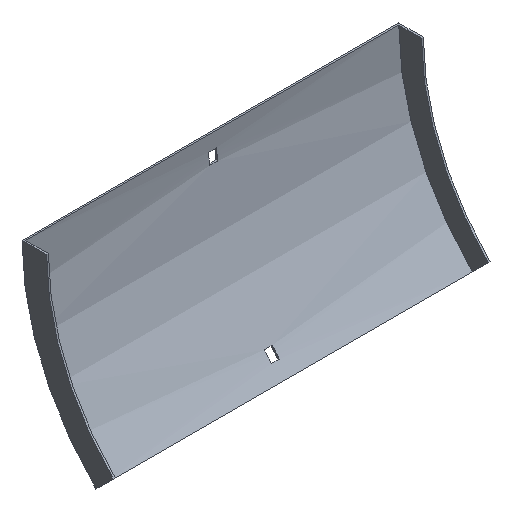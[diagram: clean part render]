
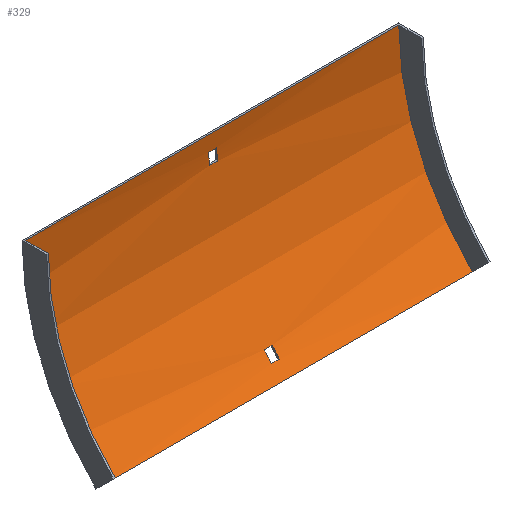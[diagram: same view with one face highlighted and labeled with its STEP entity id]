
A CAD part, isometric view. The second image highlights one B-rep face of the part: STEP entity #329.
In plain terms, the highlighted cylindrical face has radius 204 mm (diameter 408 mm), a partial arc.
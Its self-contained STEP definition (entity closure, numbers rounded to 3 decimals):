
#3 = AXIS2_PLACEMENT_3D ( 'NONE', #198, #384, #573 ) ;
#9 = VECTOR ( 'NONE', #412, 1000. ) ;
#10 = FACE_BOUND ( 'NONE', #462, .T. ) ;
#26 = CARTESIAN_POINT ( 'NONE',  ( -3.25, -205.5, 0. ) ) ;
#33 = CARTESIAN_POINT ( 'NONE',  ( 152., -205.5, 0. ) ) ;
#34 = VERTEX_POINT ( 'NONE', #135 ) ;
#44 = DIRECTION ( 'NONE',  ( 0., 0., 1. ) ) ;
#45 = EDGE_CURVE ( 'NONE', #207, #34, #372, .T. ) ;
#48 = ORIENTED_EDGE ( 'NONE', *, *, #603, .T. ) ;
#56 = DIRECTION ( 'NONE',  ( -1., 0., 0. ) ) ;
#66 = EDGE_CURVE ( 'NONE', #211, #172, #245, .T. ) ;
#67 = AXIS2_PLACEMENT_3D ( 'NONE', #33, #581, #397 ) ;
#71 = ORIENTED_EDGE ( 'NONE', *, *, #566, .T. ) ;
#72 = DIRECTION ( 'NONE',  ( 1., 0., 0. ) ) ;
#76 = ORIENTED_EDGE ( 'NONE', *, *, #45, .T. ) ;
#79 = VERTEX_POINT ( 'NONE', #551 ) ;
#80 = ORIENTED_EDGE ( 'NONE', *, *, #87, .F. ) ;
#87 = EDGE_CURVE ( 'NONE', #499, #211, #319, .T. ) ;
#99 = CARTESIAN_POINT ( 'NONE',  ( 3.25, -1.853, -12. ) ) ;
#135 = CARTESIAN_POINT ( 'NONE',  ( 3.25, -53.015, -135.515 ) ) ;
#145 = AXIS2_PLACEMENT_3D ( 'NONE', #424, #416, #507 ) ;
#149 = EDGE_CURVE ( 'NONE', #232, #499, #195, .T. ) ;
#150 = CARTESIAN_POINT ( 'NONE',  ( 152., -61.25, -144.25 ) ) ;
#155 = EDGE_CURVE ( 'NONE', #253, #401, #343, .T. ) ;
#163 = LINE ( 'NONE', #354, #484 ) ;
#172 = VERTEX_POINT ( 'NONE', #381 ) ;
#195 = CIRCLE ( 'NONE', #257, 204. ) ;
#198 = CARTESIAN_POINT ( 'NONE',  ( 153.5, -205.5, 0. ) ) ;
#200 = EDGE_LOOP ( 'NONE', ( #534, #377, #472, #394 ) ) ;
#201 = CARTESIAN_POINT ( 'NONE',  ( 3.25, -205.5, 0. ) ) ;
#206 = DIRECTION ( 'NONE',  ( 0., 0., -1. ) ) ;
#207 = VERTEX_POINT ( 'NONE', #210 ) ;
#210 = CARTESIAN_POINT ( 'NONE',  ( 3.25, -47.167, -128.634 ) ) ;
#211 = VERTEX_POINT ( 'NONE', #306 ) ;
#220 = ORIENTED_EDGE ( 'NONE', *, *, #66, .F. ) ;
#227 = AXIS2_PLACEMENT_3D ( 'NONE', #473, #244, #606 ) ;
#232 = VERTEX_POINT ( 'NONE', #308 ) ;
#244 = DIRECTION ( 'NONE',  ( 1., 0., 0. ) ) ;
#245 = CIRCLE ( 'NONE', #145, 204. ) ;
#253 = VERTEX_POINT ( 'NONE', #450 ) ;
#254 = FACE_OUTER_BOUND ( 'NONE', #200, .T. ) ;
#256 = AXIS2_PLACEMENT_3D ( 'NONE', #447, #410, #44 ) ;
#257 = AXIS2_PLACEMENT_3D ( 'NONE', #201, #471, #206 ) ;
#262 = EDGE_CURVE ( 'NONE', #347, #79, #267, .T. ) ;
#266 = DIRECTION ( 'NONE',  ( -1., 0., 0. ) ) ;
#267 = CIRCLE ( 'NONE', #491, 204. ) ;
#269 = VERTEX_POINT ( 'NONE', #538 ) ;
#271 = EDGE_CURVE ( 'NONE', #269, #579, #588, .T. ) ;
#280 = CARTESIAN_POINT ( 'NONE',  ( 153.5, -1.853, -12. ) ) ;
#301 = CIRCLE ( 'NONE', #227, 204. ) ;
#304 = EDGE_CURVE ( 'NONE', #253, #269, #505, .T. ) ;
#306 = CARTESIAN_POINT ( 'NONE',  ( -3.25, -1.853, -12. ) ) ;
#307 = LINE ( 'NONE', #544, #477 ) ;
#308 = CARTESIAN_POINT ( 'NONE',  ( 3.25, -2.584, -21. ) ) ;
#314 = DIRECTION ( 'NONE',  ( 1., 0., 0. ) ) ;
#319 = LINE ( 'NONE', #280, #9 ) ;
#329 = ADVANCED_FACE ( 'NONE', ( #530, #254, #10 ), #388, .F. ) ;
#343 = LINE ( 'NONE', #150, #467 ) ;
#347 = VERTEX_POINT ( 'NONE', #524 ) ;
#354 = CARTESIAN_POINT ( 'NONE',  ( 153.5, -2.584, -21. ) ) ;
#372 = CIRCLE ( 'NONE', #256, 204. ) ;
#377 = ORIENTED_EDGE ( 'NONE', *, *, #155, .F. ) ;
#381 = CARTESIAN_POINT ( 'NONE',  ( -3.25, -2.584, -21. ) ) ;
#384 = DIRECTION ( 'NONE',  ( -1., 0., 0. ) ) ;
#387 = ORIENTED_EDGE ( 'NONE', *, *, #262, .T. ) ;
#388 = CYLINDRICAL_SURFACE ( 'NONE', #3, 204. ) ;
#394 = ORIENTED_EDGE ( 'NONE', *, *, #271, .T. ) ;
#397 = DIRECTION ( 'NONE',  ( 0., 0., 1. ) ) ;
#399 = CARTESIAN_POINT ( 'NONE',  ( 152., -1.5, 0. ) ) ;
#401 = VERTEX_POINT ( 'NONE', #597 ) ;
#403 = DIRECTION ( 'NONE',  ( 1., 0., 0. ) ) ;
#409 = DIRECTION ( 'NONE',  ( 0., 0., -1. ) ) ;
#410 = DIRECTION ( 'NONE',  ( -1., 0., 0. ) ) ;
#412 = DIRECTION ( 'NONE',  ( -1., 0., 0. ) ) ;
#416 = DIRECTION ( 'NONE',  ( -1., 0., 0. ) ) ;
#424 = CARTESIAN_POINT ( 'NONE',  ( -3.25, -205.5, 0. ) ) ;
#428 = EDGE_LOOP ( 'NONE', ( #220, #80, #572, #452 ) ) ;
#439 = VECTOR ( 'NONE', #403, 1000. ) ;
#447 = CARTESIAN_POINT ( 'NONE',  ( 3.25, -205.5, 0. ) ) ;
#449 = CARTESIAN_POINT ( 'NONE',  ( 153.5, -47.167, -128.634 ) ) ;
#450 = CARTESIAN_POINT ( 'NONE',  ( 152., -61.25, -144.25 ) ) ;
#452 = ORIENTED_EDGE ( 'NONE', *, *, #568, .F. ) ;
#462 = EDGE_LOOP ( 'NONE', ( #48, #387, #71, #76 ) ) ;
#467 = VECTOR ( 'NONE', #56, 1000. ) ;
#471 = DIRECTION ( 'NONE',  ( 1., 0., 0. ) ) ;
#472 = ORIENTED_EDGE ( 'NONE', *, *, #304, .T. ) ;
#473 = CARTESIAN_POINT ( 'NONE',  ( -152., -205.5, 0. ) ) ;
#477 = VECTOR ( 'NONE', #266, 1000. ) ;
#484 = VECTOR ( 'NONE', #314, 1000. ) ;
#491 = AXIS2_PLACEMENT_3D ( 'NONE', #26, #72, #409 ) ;
#499 = VERTEX_POINT ( 'NONE', #99 ) ;
#505 = CIRCLE ( 'NONE', #67, 204. ) ;
#507 = DIRECTION ( 'NONE',  ( 0., 0., 1. ) ) ;
#524 = CARTESIAN_POINT ( 'NONE',  ( -3.25, -53.015, -135.515 ) ) ;
#530 = FACE_BOUND ( 'NONE', #428, .T. ) ;
#532 = CARTESIAN_POINT ( 'NONE',  ( -152., -1.5, 0. ) ) ;
#534 = ORIENTED_EDGE ( 'NONE', *, *, #548, .F. ) ;
#538 = CARTESIAN_POINT ( 'NONE',  ( 152., -1.5, 0. ) ) ;
#541 = DIRECTION ( 'NONE',  ( -1., 0., 0. ) ) ;
#544 = CARTESIAN_POINT ( 'NONE',  ( 153.5, -53.015, -135.515 ) ) ;
#548 = EDGE_CURVE ( 'NONE', #401, #579, #301, .T. ) ;
#550 = LINE ( 'NONE', #449, #439 ) ;
#551 = CARTESIAN_POINT ( 'NONE',  ( -3.25, -47.167, -128.634 ) ) ;
#566 = EDGE_CURVE ( 'NONE', #79, #207, #550, .T. ) ;
#568 = EDGE_CURVE ( 'NONE', #172, #232, #163, .T. ) ;
#572 = ORIENTED_EDGE ( 'NONE', *, *, #149, .F. ) ;
#573 = DIRECTION ( 'NONE',  ( 0., 0., 1. ) ) ;
#576 = VECTOR ( 'NONE', #541, 1000. ) ;
#579 = VERTEX_POINT ( 'NONE', #532 ) ;
#581 = DIRECTION ( 'NONE',  ( 1., 0., 0. ) ) ;
#588 = LINE ( 'NONE', #399, #576 ) ;
#597 = CARTESIAN_POINT ( 'NONE',  ( -152., -61.25, -144.25 ) ) ;
#603 = EDGE_CURVE ( 'NONE', #34, #347, #307, .T. ) ;
#606 = DIRECTION ( 'NONE',  ( 0., 0., 1. ) ) ;
